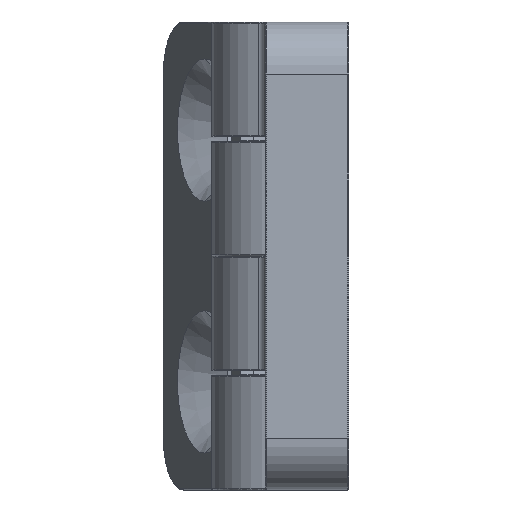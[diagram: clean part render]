
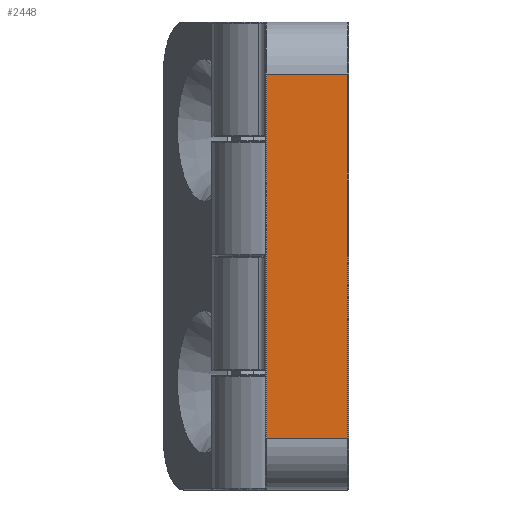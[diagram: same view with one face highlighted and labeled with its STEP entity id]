
A CAD part, left-side view. The second image highlights one B-rep face of the part: STEP entity #2448.
In plain terms, the highlighted planar face has unit normal (-1, 0, 0).
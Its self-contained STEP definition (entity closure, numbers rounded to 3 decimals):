
#43 = CARTESIAN_POINT ( 'NONE',  ( -13., 8., 22.5 ) ) ;
#258 = DIRECTION ( 'NONE',  ( 1., 0., 0. ) ) ;
#460 = AXIS2_PLACEMENT_3D ( 'NONE', #43, #258, #1650 ) ;
#490 = VECTOR ( 'NONE', #1307, 1000. ) ;
#572 = FACE_OUTER_BOUND ( 'NONE', #1243, .T. ) ;
#607 = LINE ( 'NONE', #1322, #2146 ) ;
#646 = ORIENTED_EDGE ( 'NONE', *, *, #1109, .T. ) ;
#750 = VERTEX_POINT ( 'NONE', #2514 ) ;
#912 = CARTESIAN_POINT ( 'NONE',  ( -13., 7.9, -17.5 ) ) ;
#974 = LINE ( 'NONE', #1213, #2397 ) ;
#1015 = LINE ( 'NONE', #2014, #2253 ) ;
#1087 = EDGE_CURVE ( 'NONE', #1913, #1561, #607, .T. ) ;
#1095 = VERTEX_POINT ( 'NONE', #912 ) ;
#1109 = EDGE_CURVE ( 'NONE', #750, #1913, #1610, .T. ) ;
#1213 = CARTESIAN_POINT ( 'NONE',  ( -13., 7.9, 22.5 ) ) ;
#1234 = ORIENTED_EDGE ( 'NONE', *, *, #2423, .T. ) ;
#1235 = PLANE ( 'NONE',  #460 ) ;
#1243 = EDGE_LOOP ( 'NONE', ( #2320, #646, #2350, #1234 ) ) ;
#1307 = DIRECTION ( 'NONE',  ( 0., 0., 1. ) ) ;
#1322 = CARTESIAN_POINT ( 'NONE',  ( -13., 8., 17.5 ) ) ;
#1410 = CARTESIAN_POINT ( 'NONE',  ( -13., 0.1, 17.5 ) ) ;
#1561 = VERTEX_POINT ( 'NONE', #2299 ) ;
#1610 = LINE ( 'NONE', #1943, #490 ) ;
#1650 = DIRECTION ( 'NONE',  ( 0., 0., -1. ) ) ;
#1913 = VERTEX_POINT ( 'NONE', #1410 ) ;
#1924 = EDGE_CURVE ( 'NONE', #1095, #750, #1015, .T. ) ;
#1943 = CARTESIAN_POINT ( 'NONE',  ( -13., 0.1, 17.5 ) ) ;
#2014 = CARTESIAN_POINT ( 'NONE',  ( -13., 8., -17.5 ) ) ;
#2046 = DIRECTION ( 'NONE',  ( 0., 0., -1. ) ) ;
#2146 = VECTOR ( 'NONE', #2536, 1000. ) ;
#2253 = VECTOR ( 'NONE', #2434, 1000. ) ;
#2299 = CARTESIAN_POINT ( 'NONE',  ( -13., 7.9, 17.5 ) ) ;
#2320 = ORIENTED_EDGE ( 'NONE', *, *, #1924, .T. ) ;
#2350 = ORIENTED_EDGE ( 'NONE', *, *, #1087, .T. ) ;
#2397 = VECTOR ( 'NONE', #2046, 1000. ) ;
#2423 = EDGE_CURVE ( 'NONE', #1561, #1095, #974, .T. ) ;
#2434 = DIRECTION ( 'NONE',  ( 0., -1., 0. ) ) ;
#2448 = ADVANCED_FACE ( 'NONE', ( #572 ), #1235, .F. ) ;
#2514 = CARTESIAN_POINT ( 'NONE',  ( -13., 0.1, -17.5 ) ) ;
#2536 = DIRECTION ( 'NONE',  ( 0., 1., 0. ) ) ;
